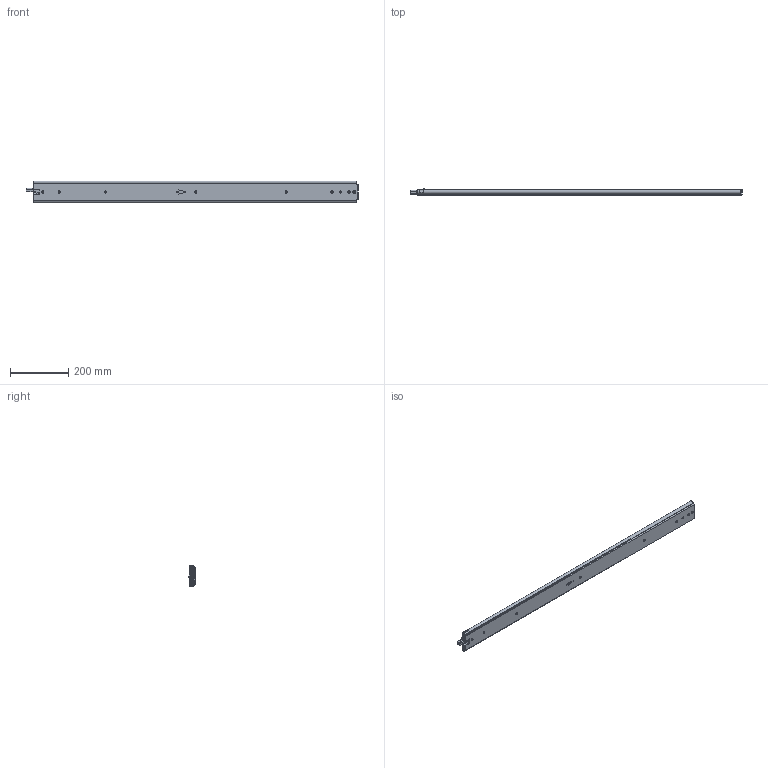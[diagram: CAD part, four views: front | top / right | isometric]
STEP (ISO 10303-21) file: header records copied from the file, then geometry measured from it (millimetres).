
FILE_DESCRIPTION((''),'2;1');
FILE_NAME('DG-76-3S-44YOU_ASM','2023-05-11T',('jishu015'),(''),'PRO/ENGINEER BY PARAMETRIC TECHNOLOGY CORPORATION, 2010280','PRO/ENGINEER BY PARAMETRIC TECHNOLOGY CORPORATION, 2010280','');
FILE_SCHEMA(('CONFIG_CONTROL_DESIGN'));
Products named in the file (29): KP-76-04WAIKE-1816___________; 1076-WAIKEZIDANJIAO16112; WAIK16____________ASM; 1076XIAOZHUTIAO-2251621; 16___________; 1076XIAOZHUTIAO-1751611_ASM; KP-76-04ZHONGGUI1816___________; 76CHANGGUIZHONGGUIJIAO1621___; 3X6WODIN16___________; ZHONGGUIBAIKOU16___________; PJ-76-30__________; PJ-76-03__________; 76-XIAOZHUJIA-11__________; GANGZHU-XIAO__________; ZHUJIA-XIAO___________ASM; ZHONGGUI6____________ASM; KP-76-04NEIGUI1816___________; PJ-76-31__________; DAOGPIAN16___________; 1053-3SBANJ01__________; JIAO-11__________; 76XINSUOKOU__________; PJ-338__________; PJ-356__________; PJ-357__________; PJ-336__________; M4X4__________; NEIGUI16____________ASM; DG-76-3S-44YOU_ASM
Assembly tree (88 placements, depth 4):
  DG-76-3S-44YOU_ASM
    WAIK16____________ASM
      KP-76-04WAIKE-1816___________
      1076-WAIKEZIDANJIAO16112  x2
    1076XIAOZHUTIAO-1751611_ASM  x2
      1076XIAOZHUTIAO-2251621
      16___________
    ZHONGGUI6____________ASM
      KP-76-04ZHONGGUI1816___________
      76CHANGGUIZHONGGUIJIAO1621___
      3X6WODIN16___________
      ZHONGGUIBAIKOU16___________
      PJ-76-30__________
      PJ-76-03__________
      ZHUJIA-XIAO___________ASM
        76-XIAOZHUJIA-11__________
        GANGZHU-XIAO__________  x40
    NEIGUI16____________ASM
      KP-76-04NEIGUI1816___________
      PJ-76-31__________
      DAOGPIAN16___________
      1053-3SBANJ01__________
      JIAO-11__________
      76XINSUOKOU__________
      PJ-338__________
      PJ-356__________
      PJ-357__________
      PJ-336__________
      M4X4__________
Bounding box: 1143.52 x 20.7 x 75.3 mm (x, y, z)
Volume: 736009.1 mm3; surface area: 708206.8 mm2
Topology: 104 solids, 104 shells, 2514 faces, 7670 edges, 4847 vertices
Faces by surface type: plane 1297, cylinder 923, sphere 167, bspline 60, cone 28, extrusion 23, torus 16
Entity records: 80824 total; most frequent: CARTESIAN_POINT 21525, ORIENTED_EDGE 13016, DIRECTION 11723, EDGE_CURVE 6508, VERTEX_POINT 4243, AXIS2_PLACEMENT_3D 4062, VECTOR 3599, LINE 3576
